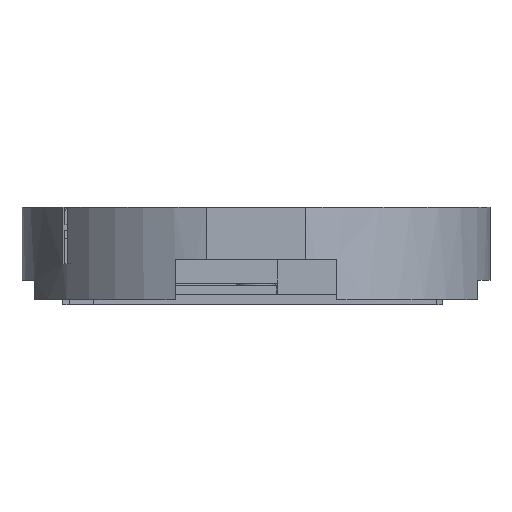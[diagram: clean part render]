
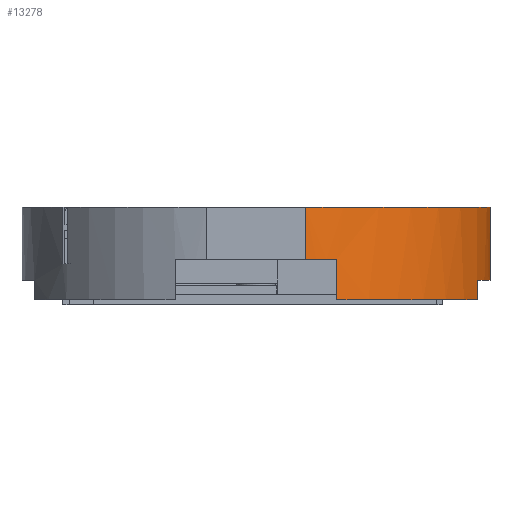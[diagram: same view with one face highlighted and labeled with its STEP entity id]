
A CAD part, front view. The second image highlights one B-rep face of the part: STEP entity #13278.
In plain terms, the highlighted cylindrical face has radius 22 mm (diameter 44 mm), a partial arc.
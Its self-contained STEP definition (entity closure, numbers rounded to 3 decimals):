
#2210 = PLANE('',#2211);
#2211 = AXIS2_PLACEMENT_3D('',#2212,#2213,#2214);
#2212 = CARTESIAN_POINT('',(-7.6,-21.85,15.3));
#2213 = DIRECTION('',(0.,0.,1.));
#2214 = DIRECTION('',(1.,0.,0.));
#2392 = PLANE('',#2393);
#2393 = AXIS2_PLACEMENT_3D('',#2394,#2395,#2396);
#2394 = CARTESIAN_POINT('',(7.6,-21.85,11.3));
#2395 = DIRECTION('',(1.,0.,0.));
#2396 = DIRECTION('',(0.,0.,1.));
#2419 = PLANE('',#2420);
#2420 = AXIS2_PLACEMENT_3D('',#2421,#2422,#2423);
#2421 = CARTESIAN_POINT('',(0.,0.,11.5));
#2422 = DIRECTION('',(0.,0.,1.));
#2423 = DIRECTION('',(1.,0.,-0.));
#2446 = PLANE('',#2447);
#2447 = AXIS2_PLACEMENT_3D('',#2448,#2449,#2450);
#2448 = CARTESIAN_POINT('',(16.8,-7.1,0.));
#2449 = DIRECTION('',(0.,1.,0.));
#2450 = DIRECTION('',(0.,0.,1.));
#2474 = PLANE('',#2475);
#2475 = AXIS2_PLACEMENT_3D('',#2476,#2477,#2478);
#2476 = CARTESIAN_POINT('',(16.8,-7.1,13.3));
#2477 = DIRECTION('',(0.,0.,1.));
#2478 = DIRECTION('',(1.,0.,0.));
#4973 = CYLINDRICAL_SURFACE('',#4974,22.);
#4974 = AXIS2_PLACEMENT_3D('',#4975,#4976,#4977);
#4975 = CARTESIAN_POINT('',(0.,0.,11.5));
#4976 = DIRECTION('',(0.,0.,1.));
#4977 = DIRECTION('',(1.,0.,-0.));
#13094 = PLANE('',#13095);
#13095 = AXIS2_PLACEMENT_3D('',#13096,#13097,#13098);
#13096 = CARTESIAN_POINT('',(0.,0.,20.2));
#13097 = DIRECTION('',(0.,0.,1.));
#13098 = DIRECTION('',(1.,0.,-0.));
#13129 = VERTEX_POINT('',#13130);
#13130 = CARTESIAN_POINT('',(4.664,-21.5,20.2));
#13145 = PLANE('',#13146);
#13146 = AXIS2_PLACEMENT_3D('',#13147,#13148,#13149);
#13147 = CARTESIAN_POINT('',(-30.,-21.5,0.));
#13148 = DIRECTION('',(0.,1.,0.));
#13149 = DIRECTION('',(0.,0.,1.));
#13157 = EDGE_CURVE('',#13129,#13158,#13160,.T.);
#13158 = VERTEX_POINT('',#13159);
#13159 = CARTESIAN_POINT('',(22.,0.,20.2));
#13160 = SURFACE_CURVE('',#13161,(#13166,#13173),.PCURVE_S1.);
#13161 = CIRCLE('',#13162,22.);
#13162 = AXIS2_PLACEMENT_3D('',#13163,#13164,#13165);
#13163 = CARTESIAN_POINT('',(0.,0.,20.2));
#13164 = DIRECTION('',(0.,0.,1.));
#13165 = DIRECTION('',(1.,0.,-0.));
#13166 = PCURVE('',#13094,#13167);
#13167 = DEFINITIONAL_REPRESENTATION('',(#13168),#13172);
#13168 = CIRCLE('',#13169,22.);
#13169 = AXIS2_PLACEMENT_2D('',#13170,#13171);
#13170 = CARTESIAN_POINT('',(0.,0.));
#13171 = DIRECTION('',(1.,0.));
#13172 = ( GEOMETRIC_REPRESENTATION_CONTEXT(2) 
PARAMETRIC_REPRESENTATION_CONTEXT() REPRESENTATION_CONTEXT('2D SPACE',''
  ) );
#13173 = PCURVE('',#13174,#13179);
#13174 = CYLINDRICAL_SURFACE('',#13175,22.);
#13175 = AXIS2_PLACEMENT_3D('',#13176,#13177,#13178);
#13176 = CARTESIAN_POINT('',(0.,0.,11.5));
#13177 = DIRECTION('',(0.,0.,1.));
#13178 = DIRECTION('',(1.,0.,-0.));
#13179 = DEFINITIONAL_REPRESENTATION('',(#13180),#13184);
#13180 = LINE('',#13181,#13182);
#13181 = CARTESIAN_POINT('',(0.,8.7));
#13182 = VECTOR('',#13183,1.);
#13183 = DIRECTION('',(1.,0.));
#13184 = ( GEOMETRIC_REPRESENTATION_CONTEXT(2) 
PARAMETRIC_REPRESENTATION_CONTEXT() REPRESENTATION_CONTEXT('2D SPACE',''
  ) );
#13278 = ADVANCED_FACE('',(#13279),#13174,.T.);
#13279 = FACE_BOUND('',#13280,.T.);
#13280 = EDGE_LOOP('',(#13281,#13304,#13328,#13349,#13350,#13372,#13396,
    #13417));
#13281 = ORIENTED_EDGE('',*,*,#13282,.T.);
#13282 = EDGE_CURVE('',#13283,#13285,#13287,.T.);
#13283 = VERTEX_POINT('',#13284);
#13284 = CARTESIAN_POINT('',(20.823,-7.1,11.5));
#13285 = VERTEX_POINT('',#13286);
#13286 = CARTESIAN_POINT('',(20.823,-7.1,13.3));
#13287 = SURFACE_CURVE('',#13288,(#13292,#13298),.PCURVE_S1.);
#13288 = LINE('',#13289,#13290);
#13289 = CARTESIAN_POINT('',(20.823,-7.1,11.5));
#13290 = VECTOR('',#13291,1.);
#13291 = DIRECTION('',(0.,0.,1.));
#13292 = PCURVE('',#13174,#13293);
#13293 = DEFINITIONAL_REPRESENTATION('',(#13294),#13297);
#13294 = B_SPLINE_CURVE_WITH_KNOTS('',1,(#13295,#13296),.UNSPECIFIED.,
  .F.,.F.,(2,2),(0.,3.13),.PIECEWISE_BEZIER_KNOTS.);
#13295 = CARTESIAN_POINT('',(5.955,0.));
#13296 = CARTESIAN_POINT('',(5.955,3.13));
#13297 = ( GEOMETRIC_REPRESENTATION_CONTEXT(2) 
PARAMETRIC_REPRESENTATION_CONTEXT() REPRESENTATION_CONTEXT('2D SPACE',''
  ) );
#13298 = PCURVE('',#2446,#13299);
#13299 = DEFINITIONAL_REPRESENTATION('',(#13300),#13303);
#13300 = B_SPLINE_CURVE_WITH_KNOTS('',1,(#13301,#13302),.UNSPECIFIED.,
  .F.,.F.,(2,2),(0.,3.13),.PIECEWISE_BEZIER_KNOTS.);
#13301 = CARTESIAN_POINT('',(11.5,4.023));
#13302 = CARTESIAN_POINT('',(14.63,4.023));
#13303 = ( GEOMETRIC_REPRESENTATION_CONTEXT(2) 
PARAMETRIC_REPRESENTATION_CONTEXT() REPRESENTATION_CONTEXT('2D SPACE',''
  ) );
#13304 = ORIENTED_EDGE('',*,*,#13305,.T.);
#13305 = EDGE_CURVE('',#13285,#13306,#13308,.T.);
#13306 = VERTEX_POINT('',#13307);
#13307 = CARTESIAN_POINT('',(22.,0.,13.3));
#13308 = SURFACE_CURVE('',#13309,(#13314,#13321),.PCURVE_S1.);
#13309 = CIRCLE('',#13310,22.);
#13310 = AXIS2_PLACEMENT_3D('',#13311,#13312,#13313);
#13311 = CARTESIAN_POINT('',(0.,0.,13.3));
#13312 = DIRECTION('',(0.,0.,1.));
#13313 = DIRECTION('',(1.,0.,-0.));
#13314 = PCURVE('',#13174,#13315);
#13315 = DEFINITIONAL_REPRESENTATION('',(#13316),#13320);
#13316 = LINE('',#13317,#13318);
#13317 = CARTESIAN_POINT('',(0.,1.8));
#13318 = VECTOR('',#13319,1.);
#13319 = DIRECTION('',(1.,0.));
#13320 = ( GEOMETRIC_REPRESENTATION_CONTEXT(2) 
PARAMETRIC_REPRESENTATION_CONTEXT() REPRESENTATION_CONTEXT('2D SPACE',''
  ) );
#13321 = PCURVE('',#2474,#13322);
#13322 = DEFINITIONAL_REPRESENTATION('',(#13323),#13327);
#13323 = CIRCLE('',#13324,22.);
#13324 = AXIS2_PLACEMENT_2D('',#13325,#13326);
#13325 = CARTESIAN_POINT('',(-16.8,7.1));
#13326 = DIRECTION('',(1.,0.));
#13327 = ( GEOMETRIC_REPRESENTATION_CONTEXT(2) 
PARAMETRIC_REPRESENTATION_CONTEXT() REPRESENTATION_CONTEXT('2D SPACE',''
  ) );
#13328 = ORIENTED_EDGE('',*,*,#13329,.T.);
#13329 = EDGE_CURVE('',#13306,#13158,#13330,.T.);
#13330 = SURFACE_CURVE('',#13331,(#13335,#13342),.PCURVE_S1.);
#13331 = LINE('',#13332,#13333);
#13332 = CARTESIAN_POINT('',(22.,0.,11.5));
#13333 = VECTOR('',#13334,1.);
#13334 = DIRECTION('',(0.,0.,1.));
#13335 = PCURVE('',#13174,#13336);
#13336 = DEFINITIONAL_REPRESENTATION('',(#13337),#13341);
#13337 = LINE('',#13338,#13339);
#13338 = CARTESIAN_POINT('',(6.283,-0.));
#13339 = VECTOR('',#13340,1.);
#13340 = DIRECTION('',(0.,1.));
#13341 = ( GEOMETRIC_REPRESENTATION_CONTEXT(2) 
PARAMETRIC_REPRESENTATION_CONTEXT() REPRESENTATION_CONTEXT('2D SPACE',''
  ) );
#13342 = PCURVE('',#4973,#13343);
#13343 = DEFINITIONAL_REPRESENTATION('',(#13344),#13348);
#13344 = LINE('',#13345,#13346);
#13345 = CARTESIAN_POINT('',(0.,-0.));
#13346 = VECTOR('',#13347,1.);
#13347 = DIRECTION('',(0.,1.));
#13348 = ( GEOMETRIC_REPRESENTATION_CONTEXT(2) 
PARAMETRIC_REPRESENTATION_CONTEXT() REPRESENTATION_CONTEXT('2D SPACE',''
  ) );
#13349 = ORIENTED_EDGE('',*,*,#13157,.F.);
#13350 = ORIENTED_EDGE('',*,*,#13351,.F.);
#13351 = EDGE_CURVE('',#13352,#13129,#13354,.T.);
#13352 = VERTEX_POINT('',#13353);
#13353 = CARTESIAN_POINT('',(4.664,-21.5,15.3));
#13354 = SURFACE_CURVE('',#13355,(#13359,#13365),.PCURVE_S1.);
#13355 = LINE('',#13356,#13357);
#13356 = CARTESIAN_POINT('',(4.664,-21.5,11.5));
#13357 = VECTOR('',#13358,1.);
#13358 = DIRECTION('',(0.,0.,1.));
#13359 = PCURVE('',#13174,#13360);
#13360 = DEFINITIONAL_REPRESENTATION('',(#13361),#13364);
#13361 = B_SPLINE_CURVE_WITH_KNOTS('',1,(#13362,#13363),.UNSPECIFIED.,
  .F.,.F.,(2,2),(0.,8.7),
  .PIECEWISE_BEZIER_KNOTS.);
#13362 = CARTESIAN_POINT('',(4.926,0.));
#13363 = CARTESIAN_POINT('',(4.926,8.7));
#13364 = ( GEOMETRIC_REPRESENTATION_CONTEXT(2) 
PARAMETRIC_REPRESENTATION_CONTEXT() REPRESENTATION_CONTEXT('2D SPACE',''
  ) );
#13365 = PCURVE('',#13145,#13366);
#13366 = DEFINITIONAL_REPRESENTATION('',(#13367),#13371);
#13367 = LINE('',#13368,#13369);
#13368 = CARTESIAN_POINT('',(11.5,34.664));
#13369 = VECTOR('',#13370,1.);
#13370 = DIRECTION('',(1.,0.));
#13371 = ( GEOMETRIC_REPRESENTATION_CONTEXT(2) 
PARAMETRIC_REPRESENTATION_CONTEXT() REPRESENTATION_CONTEXT('2D SPACE',''
  ) );
#13372 = ORIENTED_EDGE('',*,*,#13373,.T.);
#13373 = EDGE_CURVE('',#13352,#13374,#13376,.T.);
#13374 = VERTEX_POINT('',#13375);
#13375 = CARTESIAN_POINT('',(7.6,-20.646,15.3));
#13376 = SURFACE_CURVE('',#13377,(#13382,#13389),.PCURVE_S1.);
#13377 = CIRCLE('',#13378,22.);
#13378 = AXIS2_PLACEMENT_3D('',#13379,#13380,#13381);
#13379 = CARTESIAN_POINT('',(0.,0.,15.3));
#13380 = DIRECTION('',(0.,0.,1.));
#13381 = DIRECTION('',(1.,0.,-0.));
#13382 = PCURVE('',#13174,#13383);
#13383 = DEFINITIONAL_REPRESENTATION('',(#13384),#13388);
#13384 = LINE('',#13385,#13386);
#13385 = CARTESIAN_POINT('',(0.,3.8));
#13386 = VECTOR('',#13387,1.);
#13387 = DIRECTION('',(1.,0.));
#13388 = ( GEOMETRIC_REPRESENTATION_CONTEXT(2) 
PARAMETRIC_REPRESENTATION_CONTEXT() REPRESENTATION_CONTEXT('2D SPACE',''
  ) );
#13389 = PCURVE('',#2210,#13390);
#13390 = DEFINITIONAL_REPRESENTATION('',(#13391),#13395);
#13391 = CIRCLE('',#13392,22.);
#13392 = AXIS2_PLACEMENT_2D('',#13393,#13394);
#13393 = CARTESIAN_POINT('',(7.6,21.85));
#13394 = DIRECTION('',(1.,0.));
#13395 = ( GEOMETRIC_REPRESENTATION_CONTEXT(2) 
PARAMETRIC_REPRESENTATION_CONTEXT() REPRESENTATION_CONTEXT('2D SPACE',''
  ) );
#13396 = ORIENTED_EDGE('',*,*,#13397,.F.);
#13397 = EDGE_CURVE('',#13398,#13374,#13400,.T.);
#13398 = VERTEX_POINT('',#13399);
#13399 = CARTESIAN_POINT('',(7.6,-20.646,11.5));
#13400 = SURFACE_CURVE('',#13401,(#13405,#13411),.PCURVE_S1.);
#13401 = LINE('',#13402,#13403);
#13402 = CARTESIAN_POINT('',(7.6,-20.646,11.5));
#13403 = VECTOR('',#13404,1.);
#13404 = DIRECTION('',(0.,0.,1.));
#13405 = PCURVE('',#13174,#13406);
#13406 = DEFINITIONAL_REPRESENTATION('',(#13407),#13410);
#13407 = B_SPLINE_CURVE_WITH_KNOTS('',1,(#13408,#13409),.UNSPECIFIED.,
  .F.,.F.,(2,2),(0.,4.2),.PIECEWISE_BEZIER_KNOTS.);
#13408 = CARTESIAN_POINT('',(5.065,0.));
#13409 = CARTESIAN_POINT('',(5.065,4.2));
#13410 = ( GEOMETRIC_REPRESENTATION_CONTEXT(2) 
PARAMETRIC_REPRESENTATION_CONTEXT() REPRESENTATION_CONTEXT('2D SPACE',''
  ) );
#13411 = PCURVE('',#2392,#13412);
#13412 = DEFINITIONAL_REPRESENTATION('',(#13413),#13416);
#13413 = B_SPLINE_CURVE_WITH_KNOTS('',1,(#13414,#13415),.UNSPECIFIED.,
  .F.,.F.,(2,2),(0.,4.2),.PIECEWISE_BEZIER_KNOTS.);
#13414 = CARTESIAN_POINT('',(0.2,-1.204));
#13415 = CARTESIAN_POINT('',(4.4,-1.204));
#13416 = ( GEOMETRIC_REPRESENTATION_CONTEXT(2) 
PARAMETRIC_REPRESENTATION_CONTEXT() REPRESENTATION_CONTEXT('2D SPACE',''
  ) );
#13417 = ORIENTED_EDGE('',*,*,#13418,.T.);
#13418 = EDGE_CURVE('',#13398,#13283,#13419,.T.);
#13419 = SURFACE_CURVE('',#13420,(#13425,#13432),.PCURVE_S1.);
#13420 = CIRCLE('',#13421,22.);
#13421 = AXIS2_PLACEMENT_3D('',#13422,#13423,#13424);
#13422 = CARTESIAN_POINT('',(0.,0.,11.5));
#13423 = DIRECTION('',(0.,0.,1.));
#13424 = DIRECTION('',(1.,0.,-0.));
#13425 = PCURVE('',#13174,#13426);
#13426 = DEFINITIONAL_REPRESENTATION('',(#13427),#13431);
#13427 = LINE('',#13428,#13429);
#13428 = CARTESIAN_POINT('',(0.,0.));
#13429 = VECTOR('',#13430,1.);
#13430 = DIRECTION('',(1.,0.));
#13431 = ( GEOMETRIC_REPRESENTATION_CONTEXT(2) 
PARAMETRIC_REPRESENTATION_CONTEXT() REPRESENTATION_CONTEXT('2D SPACE',''
  ) );
#13432 = PCURVE('',#2419,#13433);
#13433 = DEFINITIONAL_REPRESENTATION('',(#13434),#13438);
#13434 = CIRCLE('',#13435,22.);
#13435 = AXIS2_PLACEMENT_2D('',#13436,#13437);
#13436 = CARTESIAN_POINT('',(0.,0.));
#13437 = DIRECTION('',(1.,0.));
#13438 = ( GEOMETRIC_REPRESENTATION_CONTEXT(2) 
PARAMETRIC_REPRESENTATION_CONTEXT() REPRESENTATION_CONTEXT('2D SPACE',''
  ) );
